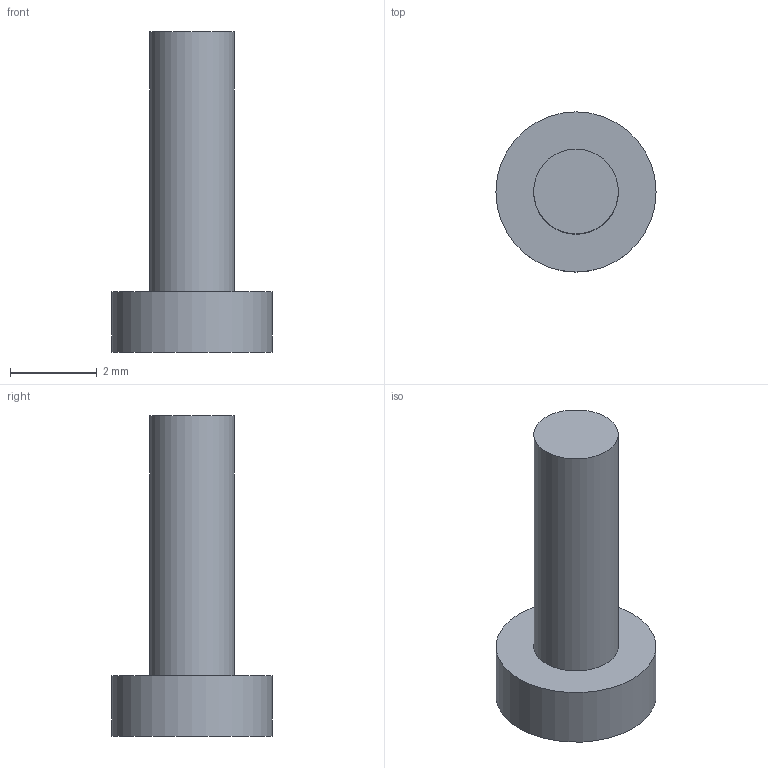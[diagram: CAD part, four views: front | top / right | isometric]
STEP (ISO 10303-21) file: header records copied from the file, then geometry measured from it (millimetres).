
FILE_DESCRIPTION(('Open CASCADE Model'),'2;1');
FILE_NAME('Open CASCADE Shape Model','2026-09-08T16:17:09',('Author'),( 'Open CASCADE'),'Open CASCADE STEP processor 7.7','Open CASCADE 7.7' ,'Unknown');
FILE_SCHEMA(('AUTOMOTIVE_DESIGN { 1 0 10303 214 1 1 1 1 }'));
Length unit declared in the file: millimetre
Products named in the file (1): Open CASCADE STEP translator 7.7 47
Bounding box: 3.7 x 3.7 x 7.4 mm (x, y, z)
Volume: 33.2 mm3; surface area: 74.7 mm2
Topology: 1 solids, 1 shells, 5 faces, 6 edges, 4 vertices
Faces by surface type: plane 3, cylinder 2
Full cylindrical faces by diameter (mm): 1.96 x1, 3.7 x1
Entity records: 192 total; most frequent: DIRECTION 34, CARTESIAN_POINT 28, ORIENTED_EDGE 12, PCURVE 12, DEFINITIONAL_REPRESENTATION 12, AXIS2_PLACEMENT_3D 10, LINE 10, VECTOR 10
